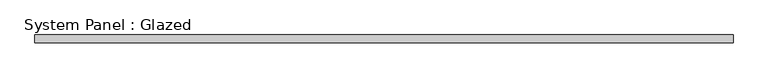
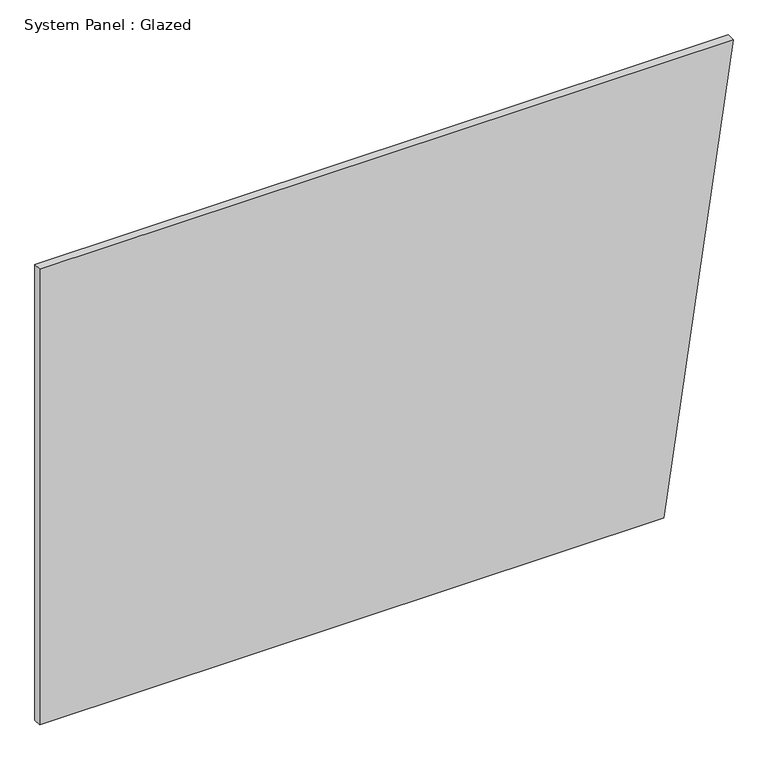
"""IFC4 building model written with IfcOpenShell, lengths in millimetres: plate geometry, System Panel : Glazed."""

from ifc_helpers import new_model, si_unit, frame, origin, place, context, project, spatial, polyline, outline, extrude, source, transform, mapped, element, save


def system_panel_glazed_70978274(model_context):
    return source(origin(), model_context, "Body", "SweptSolid", [
        extrude(outline(polyline([(0.0, -1096.4028776), (0.0, 877.1223021), (1524.0, 1096.4028776), (1524.0, -1096.4028776), (0.0, -1096.4028776)])), frame((0.0, 19.05, 0.0), z_axis=(0.0, 1.0, 0.0), x_axis=(0.0, 0.0, 1.0)), (0.0, 0.0, 1.0), 25.4),
    ])


if __name__ == "__main__":
    model = new_model("IFC4")
    model_context = context("Model", 3, world=origin())
    ifc_project = project(units=[si_unit("LENGTHUNIT", "METRE", prefix="MILLI")], contexts=[model_context])
    site = spatial("IfcSite", under=ifc_project)
    building = spatial("IfcBuilding", under=site)
    placement = place(None, origin())
    system_panel_glazed_shape = system_panel_glazed_70978274(model_context)
    element("IfcPlate", 1, ObjectType="System Panel : Glazed", at=placement, inside=building, context=model_context, shape_type="MappedRepresentation", body=[
        mapped(system_panel_glazed_shape, transform((0.0, 0.0, 0.0), x_axis=(1.0, 0.0, 0.0), y_axis=(0.0, 1.0, 0.0), z_axis=(0.0, 0.0, 1.0))),
    ])
    save(model, "model.ifc")
